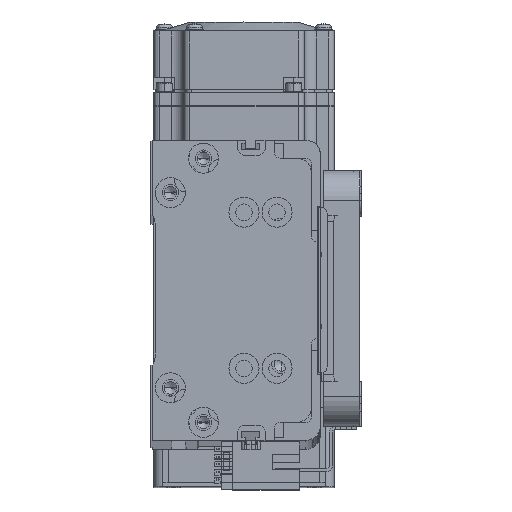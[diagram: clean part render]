
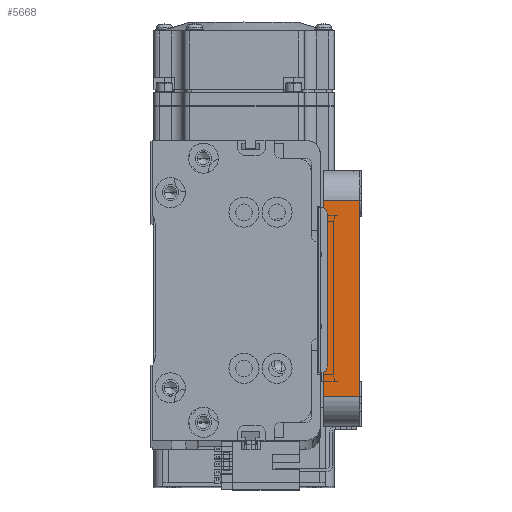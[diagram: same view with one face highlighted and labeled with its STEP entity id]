
A CAD part, top view. The second image highlights one B-rep face of the part: STEP entity #5668.
In plain terms, the highlighted planar face has unit normal (0, 0, 1) as drawn and (-1, 0, 0) by its records, which use the part's own axes.
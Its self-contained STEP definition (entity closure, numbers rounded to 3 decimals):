
#2147 = VERTEX_POINT ( 'NONE', #58187 ) ;
#2564 = FACE_OUTER_BOUND ( 'NONE', #19675, .T. ) ;
#5668 = ADVANCED_FACE ( 'NONE', ( #2564 ), #73361, .F. ) ;
#6205 = ORIENTED_EDGE ( 'NONE', *, *, #14531, .T. ) ;
#7941 = AXIS2_PLACEMENT_3D ( 'NONE', #21388, #73618, #38869 ) ;
#8576 = VECTOR ( 'NONE', #35187, 1000. ) ;
#10361 = LINE ( 'NONE', #29355, #8576 ) ;
#11115 = EDGE_CURVE ( 'NONE', #16630, #19032, #72863, .T. ) ;
#14531 = EDGE_CURVE ( 'NONE', #2147, #16630, #10361, .T. ) ;
#16630 = VERTEX_POINT ( 'NONE', #63577 ) ;
#19032 = VERTEX_POINT ( 'NONE', #44478 ) ;
#19675 = EDGE_LOOP ( 'NONE', ( #29242, #44282, #47044, #6205 ) ) ;
#21388 = CARTESIAN_POINT ( 'NONE',  ( -55., -42.5, 12. ) ) ;
#24056 = EDGE_CURVE ( 'NONE', #19032, #68944, #57429, .T. ) ;
#24758 = VECTOR ( 'NONE', #71454, 1000. ) ;
#26209 = CARTESIAN_POINT ( 'NONE',  ( -55., -42.5, 12. ) ) ;
#29242 = ORIENTED_EDGE ( 'NONE', *, *, #11115, .T. ) ;
#29355 = CARTESIAN_POINT ( 'NONE',  ( -55., 32.5, 12. ) ) ;
#30889 = CARTESIAN_POINT ( 'NONE',  ( -55., -32.5, 12. ) ) ;
#32048 = DIRECTION ( 'NONE',  ( 0., -1., 0. ) ) ;
#35187 = DIRECTION ( 'NONE',  ( 0., 0., -1. ) ) ;
#38869 = DIRECTION ( 'NONE',  ( 0., 0., -1. ) ) ;
#44282 = ORIENTED_EDGE ( 'NONE', *, *, #24056, .T. ) ;
#44478 = CARTESIAN_POINT ( 'NONE',  ( -55., -32.5, 0. ) ) ;
#47044 = ORIENTED_EDGE ( 'NONE', *, *, #55479, .F. ) ;
#49357 = CARTESIAN_POINT ( 'NONE',  ( -55., -32.5, 12. ) ) ;
#51062 = LINE ( 'NONE', #26209, #64629 ) ;
#55479 = EDGE_CURVE ( 'NONE', #2147, #68944, #51062, .T. ) ;
#57416 = VECTOR ( 'NONE', #73414, 1000. ) ;
#57429 = LINE ( 'NONE', #30889, #24758 ) ;
#58187 = CARTESIAN_POINT ( 'NONE',  ( -55., 32.5, 12. ) ) ;
#60991 = CARTESIAN_POINT ( 'NONE',  ( -55., -42.5, 0. ) ) ;
#63577 = CARTESIAN_POINT ( 'NONE',  ( -55., 32.5, 0. ) ) ;
#64629 = VECTOR ( 'NONE', #32048, 1000. ) ;
#68944 = VERTEX_POINT ( 'NONE', #49357 ) ;
#71454 = DIRECTION ( 'NONE',  ( 0., 0., 1. ) ) ;
#72863 = LINE ( 'NONE', #60991, #57416 ) ;
#73361 = PLANE ( 'NONE',  #7941 ) ;
#73414 = DIRECTION ( 'NONE',  ( 0., -1., 0. ) ) ;
#73618 = DIRECTION ( 'NONE',  ( 1., 0., 0. ) ) ;
